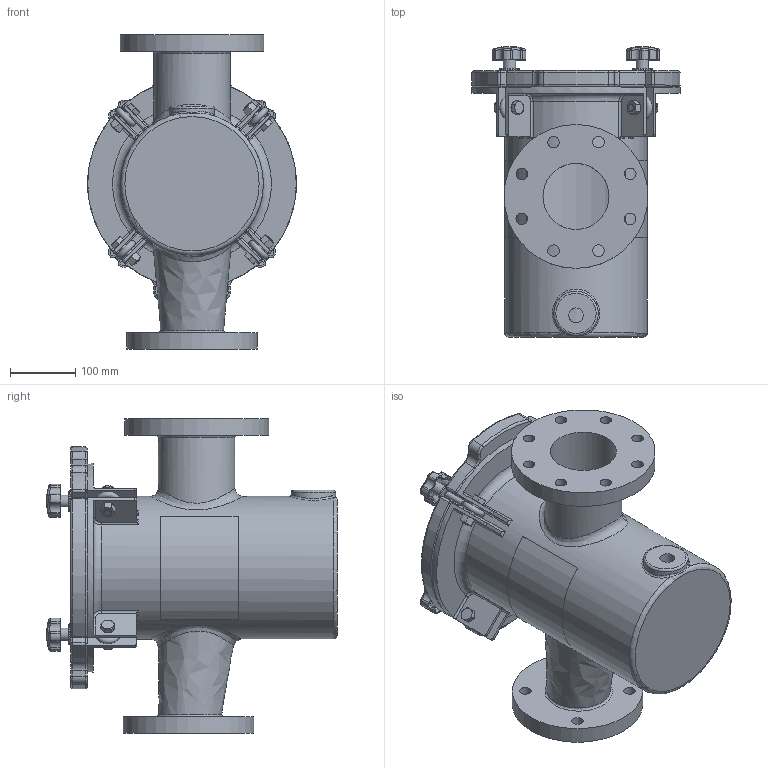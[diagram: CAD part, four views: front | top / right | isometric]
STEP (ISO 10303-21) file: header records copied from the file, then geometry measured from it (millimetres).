
FILE_DESCRIPTION(/* description */ ('100MM X 80MM FIBERGLASS STRAINER BODY'),/* implementation_level */ '2;1');
FILE_NAME(/* name */ 'E:\New folder (7)\Ready for delivery - Do not Disturb -Updated with metric Flange\Workspace\FG Reducing Strainer\Guardian FG Reducing H&L Strainer (Metric)\STRAINER H&L 100MM X 80MM.step',/* time_stamp */ '2016-10-19T04:13:52+06:00',/* author */ ('20076253'),/* organization */ (''),/* preprocessor_version */ 'ST-DEVELOPER v16.1',/* originating_system */ 'Autodesk Inventor 2016',/* authorisation */ '');
FILE_SCHEMA (('AUTOMOTIVE_DESIGN { 1 0 10303 214 3 1 1 }'));
Length unit declared in the file: inch
Products named in the file (18): NBFGBODY04X03MM; 150NBCVR13R1; 150NBGSK08R1; Perforated Basket 8in; Bride (Ring) 8in; Baffle 8in; Handle 8in; Bottom Strainer 8in; NBBSK04T316; Nut- 1_2  UNC; Bolt-1_2 x 1 1_2  UNC; EyeBolt; Washer; Knob M10; Securing Assembly For FG without Brace; Label for 8.625 inch (Right); Label for 8.625 inch (Left); STRAINER H&L 100MM X 80MM
Assembly tree (20 placements, depth 3):
  STRAINER H&L 100MM X 80MM
    NBFGBODY04X03MM
    150NBCVR13R1
    150NBGSK08R1
    NBBSK04T316
      Perforated Basket 8in
      Bride (Ring) 8in
      Baffle 8in
      Handle 8in
      Bottom Strainer 8in
    Securing Assembly For FG without Brace  x4
      Nut- 1_2  UNC
      Bolt-1_2 x 1 1_2  UNC
      EyeBolt
      Washer
      Knob M10
    Label for 8.625 inch (Right)
    Label for 8.625 inch (Left)
Bounding box: 320.68 x 446.18 x 482.6 mm (x, y, z)
Volume: 7474926.9 mm3; surface area: 1771968.3 mm2
Topology: 30 solids, 30 shells, 920 faces, 2125 edges, 1264 vertices
Faces by surface type: cylinder 337, plane 248, torus 93, cone 92, bspline 82, sphere 68
Full cylindrical faces by diameter (mm): 3.175 x10, 6.35 x2, 8.382 x4, 9.525 x8, 10.592 x4, 12.7 x4, 15.875 x8, 17.78 x12, 19 x8, 19.05 x4, 22.809 x1, 31.75 x4, 68.263 x1, 101.6 x1, 117.475 x1, 142.875 x2, 146.05 x1, 148.59 x1, 200.66 x1, 203.2 x2, 212.725 x1, 219.075 x1, 220.98 x1, 222.25 x1, 257.175 x1, 263.525 x1
Entity records: 20572 total; most frequent: CARTESIAN_POINT 7253, DIRECTION 2763, ORIENTED_EDGE 2480, EDGE_CURVE 1240, AXIS2_PLACEMENT_3D 1165, VERTEX_POINT 792, EDGE_LOOP 722, CIRCLE 573
